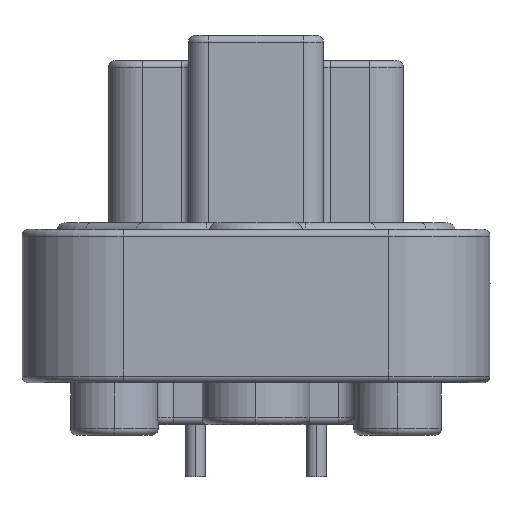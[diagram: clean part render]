
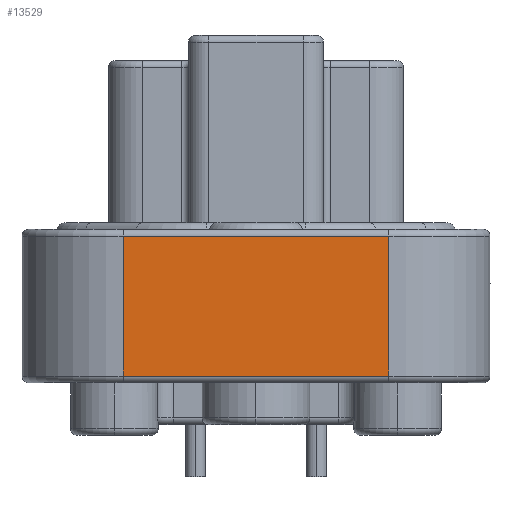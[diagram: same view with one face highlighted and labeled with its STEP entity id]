
A CAD part, left-side view. The second image highlights one B-rep face of the part: STEP entity #13529.
In plain terms, the highlighted planar face has unit normal (-1, 0, 0).
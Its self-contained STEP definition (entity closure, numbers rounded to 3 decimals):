
#2747=DIRECTION('',(0.,0.,-1.));
#2748=VECTOR('',#2747,10.541);
#2749=CARTESIAN_POINT('',(-29.604,10.008,-15.113));
#2750=LINE('',#2749,#2748);
#3494=DIRECTION('',(0.,1.,0.));
#3495=VECTOR('',#3494,20.015);
#3496=CARTESIAN_POINT('',(-29.604,-10.008,-25.654));
#3497=LINE('',#3496,#3495);
#3498=DIRECTION('',(0.,-1.,0.));
#3499=VECTOR('',#3498,20.015);
#3500=CARTESIAN_POINT('',(-29.604,10.008,-15.113));
#3501=LINE('',#3500,#3499);
#3502=DIRECTION('',(0.,0.,-1.));
#3503=VECTOR('',#3502,10.541);
#3504=CARTESIAN_POINT('',(-29.604,-10.008,-15.113));
#3505=LINE('',#3504,#3503);
#8861=CARTESIAN_POINT('',(-29.604,10.008,-15.113));
#8862=CARTESIAN_POINT('',(-29.604,-10.008,-15.113));
#8863=VERTEX_POINT('',#8861);
#8864=VERTEX_POINT('',#8862);
#9132=CARTESIAN_POINT('',(-29.604,-10.008,-25.654));
#9134=VERTEX_POINT('',#9132);
#9137=CARTESIAN_POINT('',(-29.604,10.008,-25.654));
#9138=VERTEX_POINT('',#9137);
#13517=CARTESIAN_POINT('',(-29.604,-10.008,-14.605));
#13518=DIRECTION('',(-1.,0.,0.));
#13519=DIRECTION('',(0.,1.,0.));
#13520=AXIS2_PLACEMENT_3D('',#13517,#13518,#13519);
#13521=PLANE('',#13520);
#13522=ORIENTED_EDGE('',*,*,#13511,.T.);
#13523=ORIENTED_EDGE('',*,*,#12758,.F.);
#13524=ORIENTED_EDGE('',*,*,#12644,.T.);
#13526=ORIENTED_EDGE('',*,*,#13525,.T.);
#13527=EDGE_LOOP('',(#13522,#13523,#13524,#13526));
#13528=FACE_OUTER_BOUND('',#13527,.F.);
#13529=ADVANCED_FACE('',(#13528),#13521,.T.);
#12644=EDGE_CURVE('',#8863,#8864,#3501,.T.);
#12758=EDGE_CURVE('',#8863,#9138,#2750,.T.);
#13511=EDGE_CURVE('',#9134,#9138,#3497,.T.);
#13525=EDGE_CURVE('',#8864,#9134,#3505,.T.);
